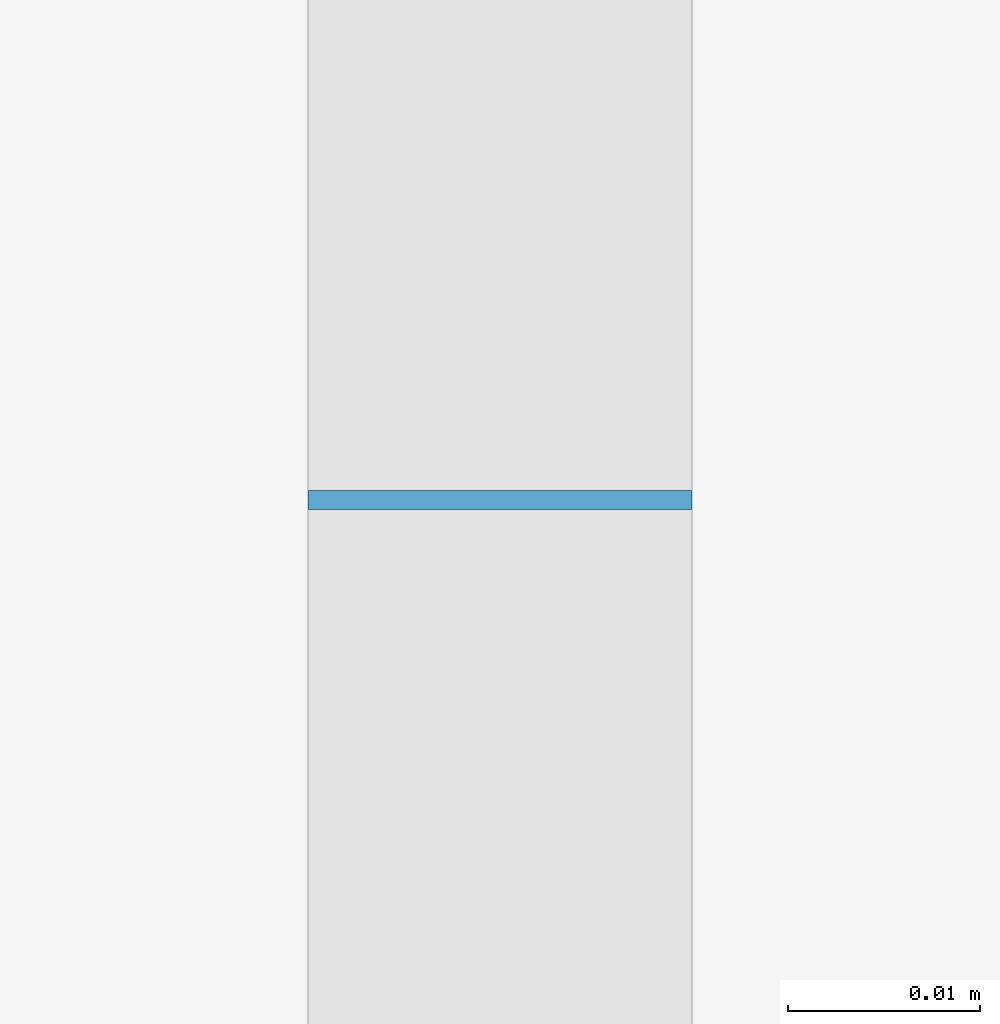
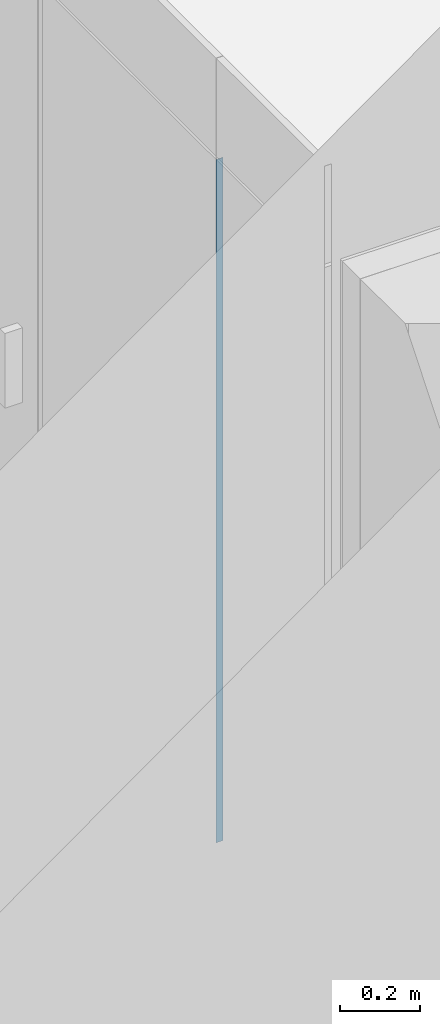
# One storey, part 23 of 66: 1 plate, 1 element without a shape of its own.
"""IFC2X3 building model written with IfcOpenShell, lengths in millimetres."""

from ifc_helpers import new_model, entity, si_unit, converted_unit, derived_unit, direction, frame, origin, origin_2d_with_axis, place, context, subcontext, project, spatial, rectangle, extrude, source, transform, mapped, material, layer, layer_set, layer_usage, type_object, type_shapes, element, aggregate, save


model = new_model("IFC2X3")

# Units and contexts
model_context = context("Model", 3, precision=0.01, world=origin(), true_north=direction((6.12303176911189e-17, 1.0)))
body_context = subcontext(model_context, "Body", "Model", "MODEL_VIEW")
ifc_project = project(units=[si_unit("LENGTHUNIT", "METRE", prefix="MILLI"), si_unit("AREAUNIT", "SQUARE_METRE"), si_unit("VOLUMEUNIT", "CUBIC_METRE"), converted_unit("PLANEANGLEUNIT", "DEGREE", entity("IfcRatioMeasure", 0.0174532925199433), si_unit("PLANEANGLEUNIT", "RADIAN"), dimensions=[0, 0, 0, 0, 0, 0, 0]), si_unit("MASSUNIT", "GRAM", prefix="KILO"), derived_unit("MASSDENSITYUNIT", [(si_unit("MASSUNIT", "GRAM", prefix="KILO"), 1), (si_unit("LENGTHUNIT", "METRE"), -3)]), si_unit("TIMEUNIT", "SECOND"), si_unit("FREQUENCYUNIT", "HERTZ"), si_unit("THERMODYNAMICTEMPERATUREUNIT", "DEGREE_CELSIUS"), derived_unit("THERMALTRANSMITTANCEUNIT", [(si_unit("MASSUNIT", "GRAM", prefix="KILO"), 1), (si_unit("THERMODYNAMICTEMPERATUREUNIT", "KELVIN"), -1), (si_unit("TIMEUNIT", "SECOND"), -3)]), derived_unit("VOLUMETRICFLOWRATEUNIT", [(si_unit("LENGTHUNIT", "METRE"), 3), (si_unit("TIMEUNIT", "SECOND"), -1)]), si_unit("ELECTRICCURRENTUNIT", "AMPERE"), si_unit("ELECTRICVOLTAGEUNIT", "VOLT"), si_unit("POWERUNIT", "WATT"), si_unit("FORCEUNIT", "NEWTON", prefix="KILO"), si_unit("ILLUMINANCEUNIT", "LUX"), si_unit("LUMINOUSFLUXUNIT", "LUMEN"), si_unit("LUMINOUSINTENSITYUNIT", "CANDELA"), derived_unit("USERDEFINED", [(si_unit("MASSUNIT", "GRAM", prefix="KILO"), -1), (si_unit("LENGTHUNIT", "METRE"), -2), (si_unit("TIMEUNIT", "SECOND"), 3), (si_unit("LUMINOUSFLUXUNIT", "LUMEN"), 1)]), derived_unit("LINEARVELOCITYUNIT", [(si_unit("LENGTHUNIT", "METRE"), 1), (si_unit("TIMEUNIT", "SECOND"), -1)]), si_unit("PRESSUREUNIT", "PASCAL"), derived_unit("USERDEFINED", [(si_unit("LENGTHUNIT", "METRE"), -2), (si_unit("MASSUNIT", "GRAM", prefix="KILO"), 1), (si_unit("TIMEUNIT", "SECOND"), -2)])], contexts=[model_context])

# Site, building, storey
site_placement = place(None, frame((-151.875543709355, 2715.0, 0.0)))
site = spatial("IfcSite", under=ifc_project, at=site_placement, Name="Surface", CompositionType="ELEMENT")
building_placement = place(site_placement, origin())
building = spatial("IfcBuilding", under=site, at=building_placement, CompositionType="ELEMENT")
storey_placement = place(building_placement, frame((0.0, 0.0, 3350.0)))
storey = spatial("IfcBuildingStorey", under=building, at=storey_placement, Name="2 korrus", CompositionType="ELEMENT", Elevation=3350.00000000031)

# Curtain wall, plate
curtain_wall_type = type_object("IfcCurtainWallType", Name="Curtain Wall:Klaassein KLS-05", PredefinedType="NOTDEFINED")
curtain_wall_placement = place(storey_placement, frame((0.0, 0.0, -3350.0)))
curtain_wall = element("IfcCurtainWall", 1, at=curtain_wall_placement, inside=storey, type_object=curtain_wall_type, Name="Curtain Wall:Klaassein KLS-05", ObjectType="Curtain Wall:Klaassein KLS-05")
ifc_material = material(Name="<Unnamed>")
ifc_layer = layer(ifc_material, 20.0)
ifc_layer_set = layer_set([ifc_layer], Name="Curtain Wall:Klaassein KLS-01")
ifc_layer_usage = layer_usage(ifc_layer_set, "AXIS3", "POSITIVE", 0.0)
plate_type = type_object("IfcPlateType", Name="Glazed", PredefinedType="CURTAIN_PANEL", material=ifc_layer_set)
shared_shape = source(origin(), body_context, "Body", "SweptSolid", [
    extrude(rectangle(XDim=20.0, YDim=0.999999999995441, at=origin_2d_with_axis()), frame((0.0, 0.0, 0.0), z_axis=(0.0, 0.0, 1.0), x_axis=(0.0, 1.0, 0.0)), (0.0, 0.0, 1.0), 2090.0),
])
type_shapes(plate_type, [shared_shape])
plate_placement = place(curtain_wall_placement, frame((27053.2859998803, 7104.41988145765, 3350.0), z_axis=(0.0, 0.0, 1.0), x_axis=(0.0, 1.0, 0.0)))
plate = element("IfcPlate", 2, at=plate_placement, type_object=plate_type, material=ifc_layer_usage, Name="System Panel:Glazed", ObjectType="Glazed", context=body_context, shape_type="MappedRepresentation", body=[
    mapped(shared_shape, transform((0.0, 0.0, 0.0), scale=1.0)),
])
aggregate(curtain_wall, [plate])

save(model, "model.ifc")
